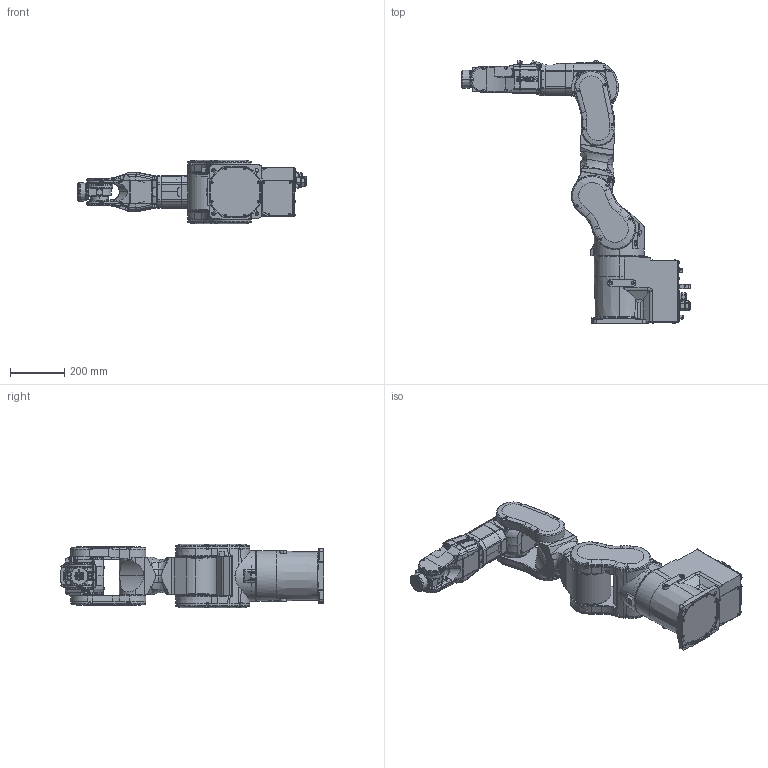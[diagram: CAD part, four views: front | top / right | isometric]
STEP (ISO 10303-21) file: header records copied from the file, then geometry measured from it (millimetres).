
FILE_DESCRIPTION (( 'STEP AP214' ), '1' );
FILE_NAME ('C8-x901S.STEP', '2025-08-27T21:44:33', ( '' ), ( '' ), 'SwSTEP 2.0', 'SolidWorks 2020', '' );
FILE_SCHEMA (( 'AUTOMOTIVE_DESIGN' ));
Length unit declared in the file: millimetre
Products named in the file (8): J5_C8S-5; J6_C8S-6; J4_C8LS-4; J1_C8S-1; BASE_C8SR-B; J2_C8LS-2; C8-x901S; J3_C8LS__1_-3
Assembly tree (7 placements, depth 2):
  C8-x901S
    BASE_C8SR-B
    J1_C8S-1
    J2_C8LS-2
    J3_C8LS__1_-3
    J4_C8LS-4
    J5_C8S-5
    J6_C8S-6
Bounding box: 842 x 972.5 x 236 mm (x, y, z)
Volume: 22759985.2 mm3; surface area: 1676601.7 mm2
Topology: 5 solids, 9 shells, 4045 faces, 10274 edges, 6580 vertices
Faces by surface type: plane 1677, cylinder 1349, cone 562, torus 338, sphere 77, bspline 42
Entity records: 175463 total; most frequent: CARTESIAN_POINT 70876, ORIENTED_EDGE 20410, DIRECTION 15971, EDGE_CURVE 10218, VERTEX_POINT 6580, AXIS2_PLACEMENT_3D 6451, B_SPLINE_CURVE_WITH_KNOTS 4628, EDGE_LOOP 4463
